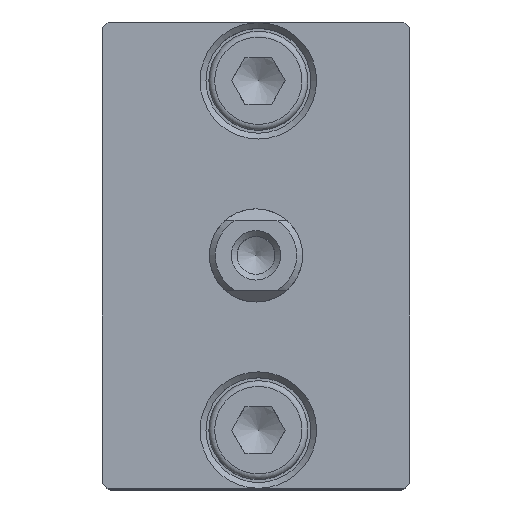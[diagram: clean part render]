
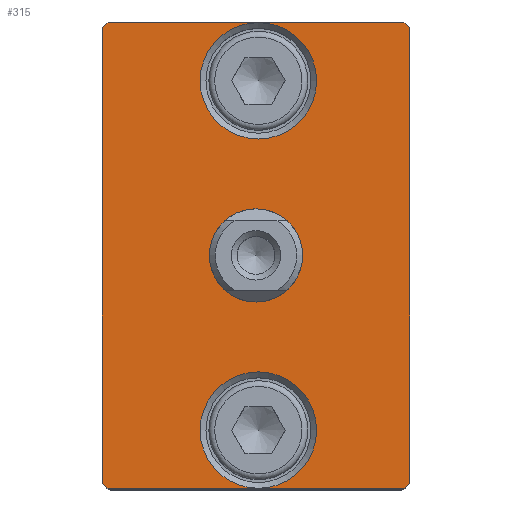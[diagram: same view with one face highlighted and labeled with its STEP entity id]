
A CAD part, top view. The second image highlights one B-rep face of the part: STEP entity #315.
In plain terms, the highlighted planar face has unit normal (0, 0, 1).
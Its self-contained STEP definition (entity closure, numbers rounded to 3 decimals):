
#88=CARTESIAN_POINT('',(-11.983,19.55,14.));
#89=VERTEX_POINT('',#88);
#90=CARTESIAN_POINT('',(-11.483,20.05,14.));
#91=VERTEX_POINT('',#90);
#92=CARTESIAN_POINT('',(-11.983,19.55,14.));
#93=DIRECTION('',(0.707,0.707,0.0));
#94=VECTOR('',#93,0.707);
#95=LINE('',#92,#94);
#96=EDGE_CURVE('',#89,#91,#95,.T.);
#200=CARTESIAN_POINT('',(13.917,20.05,14.));
#201=VERTEX_POINT('',#200);
#202=CARTESIAN_POINT('',(-11.483,20.05,14.));
#203=DIRECTION('',(1.0,0.0,0.0));
#204=VECTOR('',#203,25.4);
#205=LINE('',#202,#204);
#206=EDGE_CURVE('',#91,#201,#205,.T.);
#218=CARTESIAN_POINT('',(1.217,0.0,14.));
#219=DIRECTION('',(0.0,0.0,1.0));
#220=DIRECTION('',(1.0,0.0,0.0));
#221=AXIS2_PLACEMENT_3D('',#218,#219,#220);
#222=PLANE('',#221);
#223=ORIENTED_EDGE('',*,*,#96,.F.);
#224=CARTESIAN_POINT('',(-11.983,-19.55,14.));
#225=VERTEX_POINT('',#224);
#226=CARTESIAN_POINT('',(-11.983,-19.55,14.));
#227=DIRECTION('',(0.0,1.0,0.0));
#228=VECTOR('',#227,39.1);
#229=LINE('',#226,#228);
#230=EDGE_CURVE('',#225,#89,#229,.T.);
#231=ORIENTED_EDGE('',*,*,#230,.F.);
#232=CARTESIAN_POINT('',(-11.483,-20.05,14.));
#233=VERTEX_POINT('',#232);
#234=CARTESIAN_POINT('',(-11.483,-20.05,14.));
#235=DIRECTION('',(-0.707,0.707,0.0));
#236=VECTOR('',#235,0.707);
#237=LINE('',#234,#236);
#238=EDGE_CURVE('',#233,#225,#237,.T.);
#239=ORIENTED_EDGE('',*,*,#238,.F.);
#240=CARTESIAN_POINT('',(13.917,-20.05,14.));
#241=VERTEX_POINT('',#240);
#242=CARTESIAN_POINT('',(13.917,-20.05,14.));
#243=DIRECTION('',(-1.0,0.0,0.0));
#244=VECTOR('',#243,25.4);
#245=LINE('',#242,#244);
#246=EDGE_CURVE('',#241,#233,#245,.T.);
#247=ORIENTED_EDGE('',*,*,#246,.F.);
#248=CARTESIAN_POINT('',(14.417,-19.55,14.));
#249=VERTEX_POINT('',#248);
#250=CARTESIAN_POINT('',(14.417,-19.55,14.));
#251=DIRECTION('',(-0.707,-0.707,0.0));
#252=VECTOR('',#251,0.707);
#253=LINE('',#250,#252);
#254=EDGE_CURVE('',#249,#241,#253,.T.);
#255=ORIENTED_EDGE('',*,*,#254,.F.);
#256=CARTESIAN_POINT('',(14.417,19.55,14.));
#257=VERTEX_POINT('',#256);
#258=CARTESIAN_POINT('',(14.417,19.55,14.));
#259=DIRECTION('',(0.0,-1.0,0.0));
#260=VECTOR('',#259,39.1);
#261=LINE('',#258,#260);
#262=EDGE_CURVE('',#257,#249,#261,.T.);
#263=ORIENTED_EDGE('',*,*,#262,.F.);
#264=CARTESIAN_POINT('',(13.917,20.05,14.));
#265=DIRECTION('',(0.707,-0.707,0.0));
#266=VECTOR('',#265,0.707);
#267=LINE('',#264,#266);
#268=EDGE_CURVE('',#201,#257,#267,.T.);
#269=ORIENTED_EDGE('',*,*,#268,.F.);
#270=ORIENTED_EDGE('',*,*,#206,.F.);
#271=EDGE_LOOP('',(#223,#231,#239,#247,#255,#263,#269,#270));
#272=FACE_OUTER_BOUND('',#271,.T.);
#273=CARTESIAN_POINT('',(6.417,15.0,14.));
#274=VERTEX_POINT('',#273);
#275=CARTESIAN_POINT('',(1.417,15.0,14.));
#276=DIRECTION('',(0.0,0.0,1.0));
#277=DIRECTION('',(-1.0,0.0,0.0));
#278=AXIS2_PLACEMENT_3D('',#275,#276,#277);
#279=CIRCLE('',#278,5.0);
#280=EDGE_CURVE('',#274,#274,#279,.T.);
#281=ORIENTED_EDGE('',*,*,#280,.F.);
#282=EDGE_LOOP('',(#281));
#283=FACE_BOUND('',#282,.T.);
#284=CARTESIAN_POINT('',(1.217,-4.,14.));
#285=VERTEX_POINT('',#284);
#286=CARTESIAN_POINT('',(1.217,4.,14.));
#287=VERTEX_POINT('',#286);
#288=CARTESIAN_POINT('',(1.217,0.0,14.));
#289=DIRECTION('',(0.0,0.0,-1.0));
#290=DIRECTION('',(0.0,1.0,0.0));
#291=AXIS2_PLACEMENT_3D('',#288,#289,#290);
#292=CIRCLE('',#291,4.);
#293=EDGE_CURVE('',#285,#287,#292,.T.);
#294=ORIENTED_EDGE('',*,*,#293,.T.);
#295=CARTESIAN_POINT('',(1.217,0.0,14.));
#296=DIRECTION('',(0.0,0.0,-1.0));
#297=DIRECTION('',(0.0,1.0,0.0));
#298=AXIS2_PLACEMENT_3D('',#295,#296,#297);
#299=CIRCLE('',#298,4.);
#300=EDGE_CURVE('',#287,#285,#299,.T.);
#301=ORIENTED_EDGE('',*,*,#300,.T.);
#302=EDGE_LOOP('',(#294,#301));
#303=FACE_BOUND('',#302,.T.);
#304=CARTESIAN_POINT('',(6.417,-15.0,14.));
#305=VERTEX_POINT('',#304);
#306=CARTESIAN_POINT('',(1.417,-15.0,14.));
#307=DIRECTION('',(0.0,0.0,1.0));
#308=DIRECTION('',(-1.0,0.0,0.0));
#309=AXIS2_PLACEMENT_3D('',#306,#307,#308);
#310=CIRCLE('',#309,5.0);
#311=EDGE_CURVE('',#305,#305,#310,.T.);
#312=ORIENTED_EDGE('',*,*,#311,.F.);
#313=EDGE_LOOP('',(#312));
#314=FACE_BOUND('',#313,.T.);
#315=ADVANCED_FACE('',(#272,#283,#303,#314),#222,.T.);
